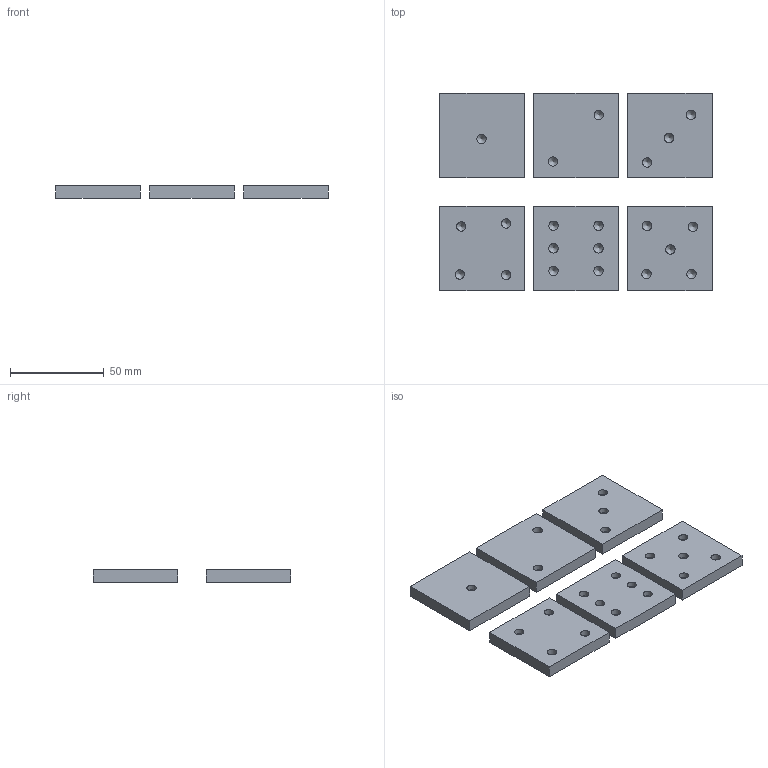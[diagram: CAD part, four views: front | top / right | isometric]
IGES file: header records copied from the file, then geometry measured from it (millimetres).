
Global section: file name: Dice v7; native system: unknown; preprocessor: unknown; author: unknown; organization: unknown; date: 20230704.120037; units: millimetre
Bounding box: 145 x 105 x 6.5 mm (x, y, z)
Volume: 77393.3 mm3; surface area: 32481.8 mm2
Topology: 6 solids, 6 shells, 78 faces, 219 edges, 153 vertices
Faces by surface type: bspline 78
